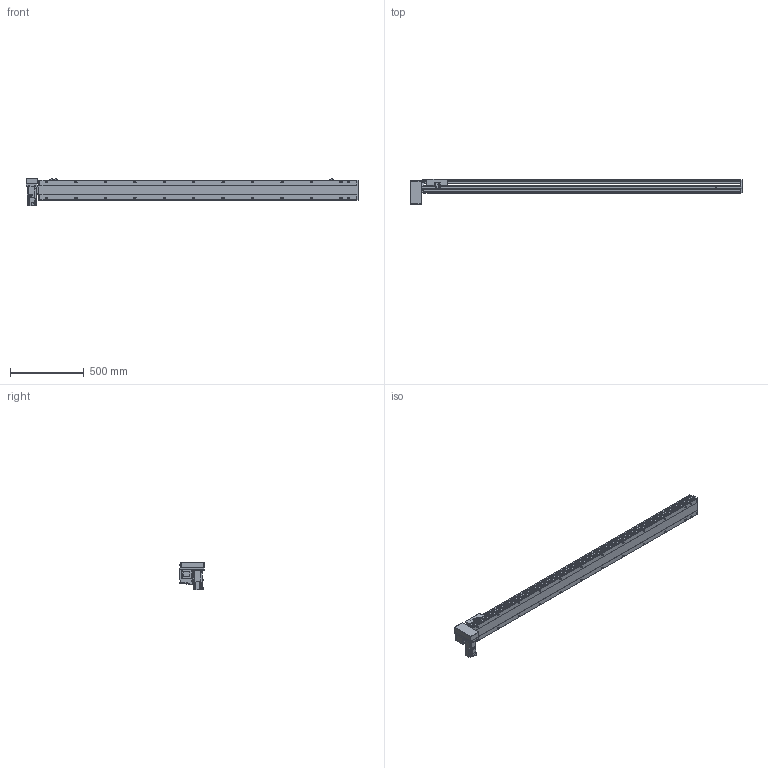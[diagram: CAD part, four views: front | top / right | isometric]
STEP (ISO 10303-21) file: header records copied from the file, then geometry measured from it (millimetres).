
FILE_DESCRIPTION( ( 'STEP AP214' ), '1' );
FILE_NAME( 'x:/temp/worker_6/temp/exporttempdir_5396_181_5tQi2/format_0/PBS140S-P40-S1900-RD-T40-C1-N(0).stp', '2022-06-09T00:47:08', ( 'License CC BY-ND 4.0' ), ( 'CADENAS' ), ' ', 'PARTsolutions', ' ' );
FILE_SCHEMA( ( 'AUTOMOTIVE_DESIGN { 1 0 10303 214 1 1 1 1 }' ) );
Length unit declared in the file: millimetre
Products named in the file (7): PBS140S-P40-S1900-RD-T40-C1-N(0); _PBS140S-S1900()_body; _PBS140ST-RD_motors; _T40-p1; _PBS140S_sliser; _PBS140S_plant; _PBS140S_sensor
Assembly tree (8 placements, depth 2):
  PBS140S-P40-S1900-RD-T40-C1-N(0)
    _PBS140S-S1900()_body
    _PBS140ST-RD_motors
    _T40-p1
    _PBS140S_sliser
    _PBS140S_plant
    _PBS140S_sensor  x3
Bounding box: 2254 x 172.5 x 189.7 mm (x, y, z)
Volume: 11136181.4 mm3; surface area: 1890408.9 mm2
Topology: 8 solids, 8 shells, 1163 faces, 3071 edges, 2009 vertices
Faces by surface type: plane 726, cylinder 377, cone 50, sphere 8, torus 2
Full cylindrical faces by diameter (mm): 3.242 x4, 4 x2, 4.134 x4, 4.4 x8, 4.5 x2, 4.8 x4, 4.917 x32, 5.5 x7, 6 x2, 7 x26, 7.5 x8, 8 x12, 8.5 x4, 10.5 x24, 14 x1, 30 x2, 50 x2
Entity records: 42904 total; most frequent: CARTESIAN_POINT 7078, DIRECTION 5628, ORIENTED_EDGE 5302, EDGE_CURVE 2651, AXIS2_PLACEMENT_3D 1979, VERTEX_POINT 1849, LINE 1670, VECTOR 1670
